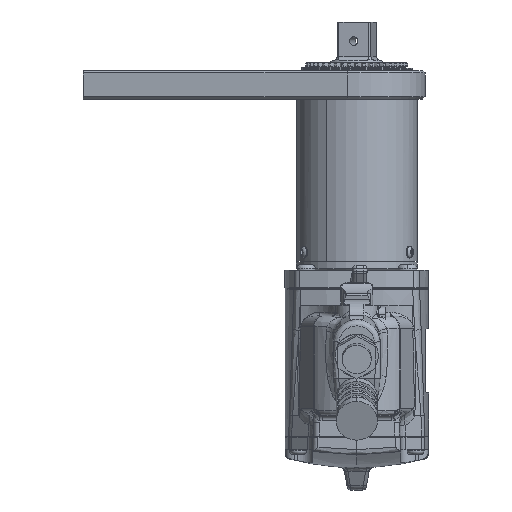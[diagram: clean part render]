
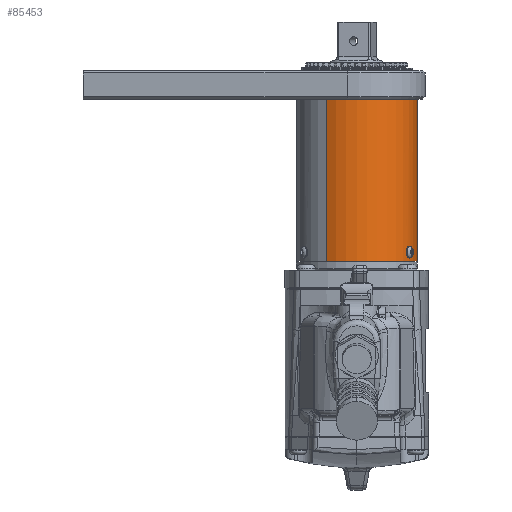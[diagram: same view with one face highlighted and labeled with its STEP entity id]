
A CAD part, front view. The second image highlights one B-rep face of the part: STEP entity #85453.
In plain terms, the highlighted cylindrical face has radius 33.655 mm (diameter 67.31 mm), a partial arc.
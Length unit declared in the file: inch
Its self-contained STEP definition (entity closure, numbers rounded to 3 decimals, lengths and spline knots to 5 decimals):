
#1428 = CARTESIAN_POINT ( 'NONE',  ( 1.16661, -0.62828, -3.6026 ) ) ;
#1774 = CARTESIAN_POINT ( 'NONE',  ( 1.18271, -0.59735, -3.69587 ) ) ;
#4271 = CIRCLE ( 'NONE', #60847, 1.325 ) ;
#5489 = CARTESIAN_POINT ( 'NONE',  ( 1.13471, -0.68416, -3.74481 ) ) ;
#5815 = CARTESIAN_POINT ( 'NONE',  ( 1.11081, -0.72231, -3.63627 ) ) ;
#6070 = EDGE_LOOP ( 'NONE', ( #40757, #42104 ) ) ;
#6215 = CARTESIAN_POINT ( 'NONE',  ( 1.15256, -0.65371, -3.5928 ) ) ;
#8029 = B_SPLINE_CURVE_WITH_KNOTS ( 'NONE', 3,
 ( #14415, #6215, #48019, #1428, #55825, #9239, #63655, #17084, #71549, #24945, #79464, #32748, #87311, #40544, #95141, #48356, #1774, #56167, #9583, #64000, #17421, #71898, #25278, #79807, #33084, #87647, #40872, #95485 ),
 .UNSPECIFIED., .F., .F.,
 ( 4, 2, 2, 2, 2, 2, 2, 2, 2, 2, 2, 2, 2, 4 ),
 ( 0.00619, 0.00697, 0.00774, 0.00813, 0.00852, 0.0089, 0.00929, 0.00968, 0.01007, 0.01045, 0.01084, 0.01123, 0.01162, 0.01239 ),
 .UNSPECIFIED. ) ;
#9239 = CARTESIAN_POINT ( 'NONE',  ( 1.17571, -0.61102, -3.61919 ) ) ;
#9583 = CARTESIAN_POINT ( 'NONE',  ( 1.17985, -0.60298, -3.70981 ) ) ;
#13327 = CARTESIAN_POINT ( 'NONE',  ( 1.12745, -0.69605, -3.7385 ) ) ;
#13669 = CARTESIAN_POINT ( 'NONE',  ( 1.11521, -0.71551, -3.62326 ) ) ;
#13959 = CIRCLE ( 'NONE', #64148, 1.325 ) ;
#14415 = CARTESIAN_POINT ( 'NONE',  ( 1.14747, -0.66252, -3.5928 ) ) ;
#17084 = CARTESIAN_POINT ( 'NONE',  ( 1.17982, -0.60304, -3.63167 ) ) ;
#17421 = CARTESIAN_POINT ( 'NONE',  ( 1.17575, -0.61093, -3.72231 ) ) ;
#17613 = CYLINDRICAL_SURFACE ( 'NONE', #93943, 1.325 ) ;
#18617 = EDGE_LOOP ( 'NONE', ( #37316, #37883, #38972, #39588 ) ) ;
#19323 = DIRECTION ( 'NONE',  ( 0., 0., 1. ) ) ;
#21203 = CARTESIAN_POINT ( 'NONE',  ( 1.12084, -0.70666, -3.72955 ) ) ;
#21528 = CARTESIAN_POINT ( 'NONE',  ( 1.12085, -0.70664, -3.61203 ) ) ;
#24945 = CARTESIAN_POINT ( 'NONE',  ( 1.18269, -0.59739, -3.64558 ) ) ;
#25016 = CARTESIAN_POINT ( 'NONE',  ( 0.6625, 1.14748, -3.8758 ) ) ;
#25278 = CARTESIAN_POINT ( 'NONE',  ( 1.17059, -0.62078, -3.73274 ) ) ;
#27379 = FACE_OUTER_BOUND ( 'NONE', #18617, .T. ) ;
#28252 = VERTEX_POINT ( 'NONE', #39059 ) ;
#28962 = CARTESIAN_POINT ( 'NONE',  ( 1.11189, -0.72066, -3.71006 ) ) ;
#29314 = CARTESIAN_POINT ( 'NONE',  ( 1.12741, -0.69612, -3.60315 ) ) ;
#31505 = VECTOR ( 'NONE', #19323, 39.37008 ) ;
#32595 = VERTEX_POINT ( 'NONE', #96971 ) ;
#32748 = CARTESIAN_POINT ( 'NONE',  ( 1.18426, -0.59426, -3.66051 ) ) ;
#32903 = DIRECTION ( 'NONE',  ( 0., 0., -1. ) ) ;
#33084 = CARTESIAN_POINT ( 'NONE',  ( 1.16441, -0.63229, -3.74088 ) ) ;
#33160 = VERTEX_POINT ( 'NONE', #73541 ) ;
#34811 = CARTESIAN_POINT ( 'NONE',  ( 0., 0., -0.2933 ) ) ;
#36098 = VECTOR ( 'NONE', #79536, 39.37008 ) ;
#36445 = CARTESIAN_POINT ( 'NONE',  ( 1.14748, -0.6625, -3.7488 ) ) ;
#36785 = CARTESIAN_POINT ( 'NONE',  ( 1.1065, -0.7289, -3.68102 ) ) ;
#37120 = CARTESIAN_POINT ( 'NONE',  ( 1.13471, -0.68416, -3.59679 ) ) ;
#37316 = ORIENTED_EDGE ( 'NONE', *, *, #90683, .F. ) ;
#37883 = ORIENTED_EDGE ( 'NONE', *, *, #92314, .F. ) ;
#38784 = CARTESIAN_POINT ( 'NONE',  ( -0.6625, -1.14748, -0.2933 ) ) ;
#38972 = ORIENTED_EDGE ( 'NONE', *, *, #91585, .T. ) ;
#39059 = CARTESIAN_POINT ( 'NONE',  ( 0.6625, 1.14748, -3.8758 ) ) ;
#39588 = ORIENTED_EDGE ( 'NONE', *, *, #92778, .T. ) ;
#40544 = CARTESIAN_POINT ( 'NONE',  ( 1.1845, -0.5938, -3.67587 ) ) ;
#40757 = ORIENTED_EDGE ( 'NONE', *, *, #93065, .T. ) ;
#40872 = CARTESIAN_POINT ( 'NONE',  ( 1.15264, -0.65357, -3.7488 ) ) ;
#42104 = ORIENTED_EDGE ( 'NONE', *, *, #93941, .T. ) ;
#42419 = CARTESIAN_POINT ( 'NONE',  ( -0.6625, -1.14748, -3.8758 ) ) ;
#42620 = DIRECTION ( 'NONE',  ( -0.5, -0.866, 0. ) ) ;
#43625 = DIRECTION ( 'NONE',  ( 0., 0., 1. ) ) ;
#43963 = CARTESIAN_POINT ( 'NONE',  ( 0., 0., -3.8758 ) ) ;
#44277 = CARTESIAN_POINT ( 'NONE',  ( 1.14491, -0.66696, -3.7488 ) ) ;
#44288 = DIRECTION ( 'NONE',  ( 0.5, 0.866, 0. ) ) ;
#44594 = CARTESIAN_POINT ( 'NONE',  ( 1.10677, -0.72848, -3.66059 ) ) ;
#44940 = CARTESIAN_POINT ( 'NONE',  ( 1.14231, -0.6714, -3.59331 ) ) ;
#48019 = CARTESIAN_POINT ( 'NONE',  ( 1.15758, -0.64476, -3.59484 ) ) ;
#48356 = CARTESIAN_POINT ( 'NONE',  ( 1.18338, -0.59601, -3.69093 ) ) ;
#52089 = CARTESIAN_POINT ( 'NONE',  ( 1.13726, -0.67991, -3.74631 ) ) ;
#52441 = CARTESIAN_POINT ( 'NONE',  ( 1.10868, -0.72558, -3.64572 ) ) ;
#52769 = CARTESIAN_POINT ( 'NONE',  ( 1.14747, -0.66252, -3.5928 ) ) ;
#54253 = VERTEX_POINT ( 'NONE', #38784 ) ;
#54629 = LINE ( 'NONE', #42419, #31505 ) ;
#55825 = CARTESIAN_POINT ( 'NONE',  ( 1.1707, -0.62059, -3.60841 ) ) ;
#56167 = CARTESIAN_POINT ( 'NONE',  ( 1.18094, -0.60084, -3.70533 ) ) ;
#59877 = CARTESIAN_POINT ( 'NONE',  ( 1.1298, -0.69224, -3.7409 ) ) ;
#60213 = CARTESIAN_POINT ( 'NONE',  ( 1.11214, -0.72026, -3.63171 ) ) ;
#60380 = CARTESIAN_POINT ( 'NONE',  ( -0.6625, -1.14748, -3.8758 ) ) ;
#60847 = AXIS2_PLACEMENT_3D ( 'NONE', #79625, #32903, #87457 ) ;
#63655 = CARTESIAN_POINT ( 'NONE',  ( 1.17723, -0.60809, -3.62319 ) ) ;
#64000 = CARTESIAN_POINT ( 'NONE',  ( 1.17727, -0.60801, -3.71829 ) ) ;
#64148 = AXIS2_PLACEMENT_3D ( 'NONE', #34811, #89384, #42620 ) ;
#67751 = CARTESIAN_POINT ( 'NONE',  ( 1.12298, -0.70326, -3.73284 ) ) ;
#68100 = VERTEX_POINT ( 'NONE', #60380 ) ;
#68105 = CARTESIAN_POINT ( 'NONE',  ( 1.11695, -0.71279, -3.61932 ) ) ;
#71549 = CARTESIAN_POINT ( 'NONE',  ( 1.18091, -0.60089, -3.63615 ) ) ;
#71898 = CARTESIAN_POINT ( 'NONE',  ( 1.17242, -0.61731, -3.72951 ) ) ;
#73541 = CARTESIAN_POINT ( 'NONE',  ( 1.14747, -0.66252, -3.5928 ) ) ;
#75642 = CARTESIAN_POINT ( 'NONE',  ( 1.11505, -0.71578, -3.71876 ) ) ;
#75982 = CARTESIAN_POINT ( 'NONE',  ( 1.12295, -0.7033, -3.6088 ) ) ;
#77388 = B_SPLINE_CURVE_WITH_KNOTS ( 'NONE', 3,
 ( #36445, #44277, #98842, #52089, #5489, #59877, #13327, #67751, #21203, #75642, #28962, #83579, #36785, #91379, #44594, #99191, #52441, #5815, #60213, #13669, #68105, #21528, #75982, #29314, #83910, #37120, #91718, #44940, #99535, #52769 ),
 .UNSPECIFIED., .F., .F.,
 ( 4, 2, 2, 2, 2, 2, 2, 2, 2, 2, 2, 2, 2, 2, 4 ),
 ( 0., 0.00039, 0.00077, 0.00116, 0.00155, 0.00232, 0.0031, 0.00348, 0.00387, 0.00426, 0.00465, 0.00503, 0.00542, 0.00581, 0.00619 ),
 .UNSPECIFIED. ) ;
#79464 = CARTESIAN_POINT ( 'NONE',  ( 1.18337, -0.59604, -3.65054 ) ) ;
#79536 = DIRECTION ( 'NONE',  ( 0., 0., 1. ) ) ;
#79625 = CARTESIAN_POINT ( 'NONE',  ( 0., 0., -3.8758 ) ) ;
#79807 = CARTESIAN_POINT ( 'NONE',  ( 1.16657, -0.62829, -3.73845 ) ) ;
#83579 = CARTESIAN_POINT ( 'NONE',  ( 1.10763, -0.72718, -3.69128 ) ) ;
#83910 = CARTESIAN_POINT ( 'NONE',  ( 1.1298, -0.69224, -3.60071 ) ) ;
#85453 = ADVANCED_FACE ( 'NONE', ( #27379, #89598 ), #17613, .T. ) ;
#86131 = CARTESIAN_POINT ( 'NONE',  ( 0.6625, 1.14748, -0.2933 ) ) ;
#87311 = CARTESIAN_POINT ( 'NONE',  ( 1.18449, -0.59381, -3.66558 ) ) ;
#87457 = DIRECTION ( 'NONE',  ( -0.5, -0.866, 0. ) ) ;
#87647 = CARTESIAN_POINT ( 'NONE',  ( 1.15765, -0.64464, -3.74673 ) ) ;
#89384 = DIRECTION ( 'NONE',  ( 0., 0., -1. ) ) ;
#89598 = FACE_BOUND ( 'NONE', #6070, .T. ) ;
#90683 = EDGE_CURVE ( 'NONE', #68100, #54253, #54629, .T. ) ;
#91379 = CARTESIAN_POINT ( 'NONE',  ( 1.10649, -0.7289, -3.66575 ) ) ;
#91585 = EDGE_CURVE ( 'NONE', #28252, #92428, #95922, .T. ) ;
#91718 = CARTESIAN_POINT ( 'NONE',  ( 1.13722, -0.67999, -3.59531 ) ) ;
#92314 = EDGE_CURVE ( 'NONE', #28252, #68100, #4271, .T. ) ;
#92428 = VERTEX_POINT ( 'NONE', #86131 ) ;
#92778 = EDGE_CURVE ( 'NONE', #92428, #54253, #13959, .T. ) ;
#93065 = EDGE_CURVE ( 'NONE', #32595, #33160, #77388, .T. ) ;
#93941 = EDGE_CURVE ( 'NONE', #33160, #32595, #8029, .T. ) ;
#93943 = AXIS2_PLACEMENT_3D ( 'NONE', #43963, #43625, #44288 ) ;
#95141 = CARTESIAN_POINT ( 'NONE',  ( 1.18427, -0.59425, -3.68096 ) ) ;
#95485 = CARTESIAN_POINT ( 'NONE',  ( 1.14748, -0.6625, -3.7488 ) ) ;
#95922 = LINE ( 'NONE', #25016, #36098 ) ;
#96971 = CARTESIAN_POINT ( 'NONE',  ( 1.14748, -0.6625, -3.7488 ) ) ;
#98842 = CARTESIAN_POINT ( 'NONE',  ( 1.14235, -0.67134, -3.7483 ) ) ;
#99191 = CARTESIAN_POINT ( 'NONE',  ( 1.10787, -0.72681, -3.65058 ) ) ;
#99535 = CARTESIAN_POINT ( 'NONE',  ( 1.14492, -0.66693, -3.5928 ) ) ;
